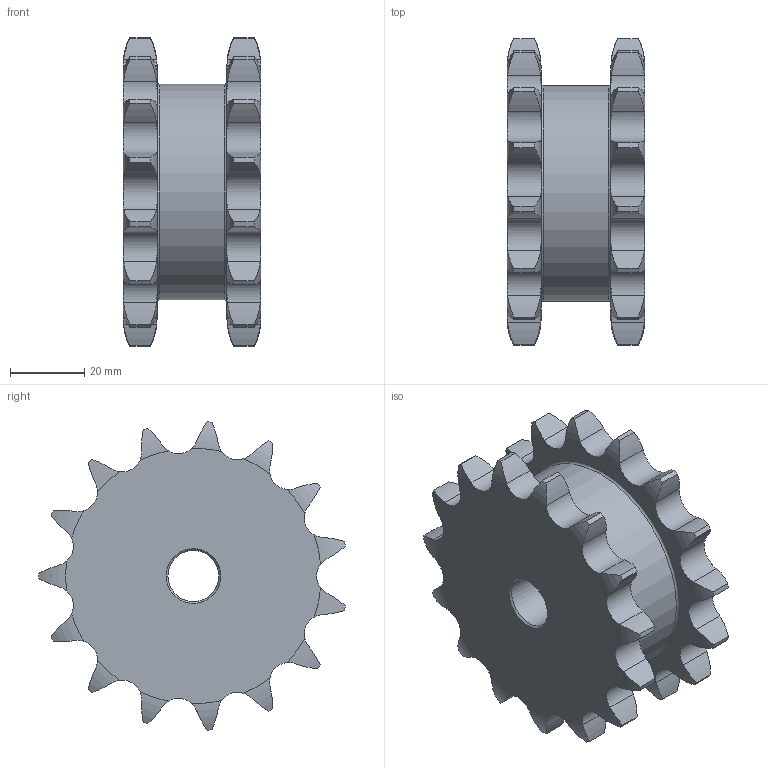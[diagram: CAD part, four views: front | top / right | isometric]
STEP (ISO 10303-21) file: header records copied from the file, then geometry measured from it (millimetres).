
FILE_DESCRIPTION(/* description */ (''),/* implementation_level */ '2;1');
FILE_NAME(/* name */ 'C:\Users\stagistaCAD\Desktop\23215015.stp',/* time_stamp */ '2018-06-25T11:27:39+02:00',/* author */ ('stagistacad'),/* organization */ (''),/* preprocessor_version */ 'ST-DEVELOPER v15.6',/* originating_system */ 'Autodesk Inventor 2015',/* authorisation */ '');
FILE_SCHEMA (('AUTOMOTIVE_DESIGN { 1 0 10303 214 3 1 1 }'));
Length unit declared in the file: millimetre
Products named in the file (1): 23215015
Bounding box: 37 x 82.41 x 82.86 mm (x, y, z)
Volume: 118477.9 mm3; surface area: 21872.2 mm2
Topology: 1 solids, 1 shells, 190 faces, 554 edges, 368 vertices
Faces by surface type: cylinder 122, torus 62, plane 4, cone 2
Full cylindrical faces by diameter (mm): 13.7 x1, 58 x1
Entity records: 6972 total; most frequent: CARTESIAN_POINT 2227, ORIENTED_EDGE 1096, DIRECTION 878, EDGE_CURVE 548, AXIS2_PLACEMENT_3D 379, VERTEX_POINT 368, B_SPLINE_CURVE_WITH_KNOTS 240, EDGE_LOOP 200
